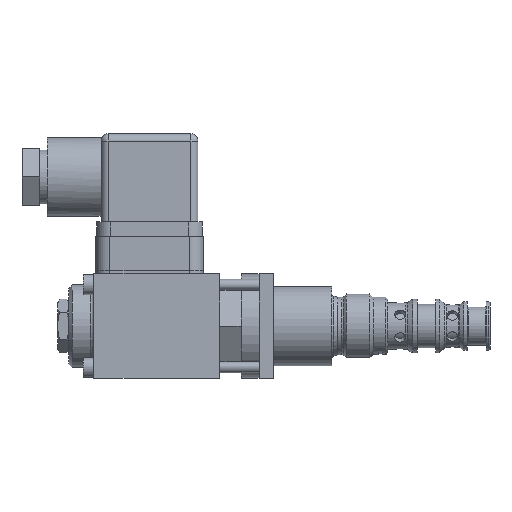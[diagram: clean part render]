
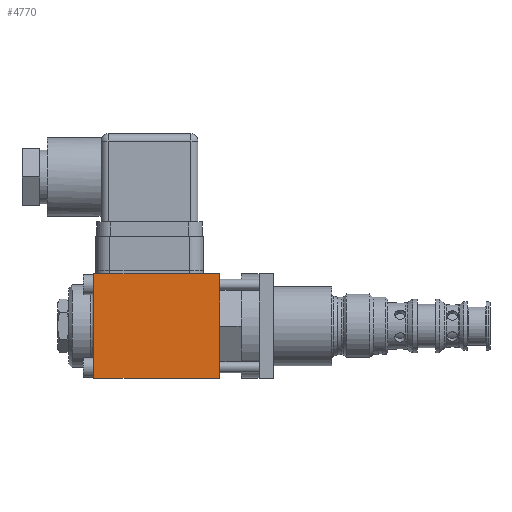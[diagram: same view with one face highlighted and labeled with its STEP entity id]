
A CAD part, front view. The second image highlights one B-rep face of the part: STEP entity #4770.
In plain terms, the highlighted planar face has unit normal (0, -1, 0).
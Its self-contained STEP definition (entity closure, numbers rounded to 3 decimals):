
#4770=ADVANCED_FACE('', (#4780), #4790, .T.);
#22810=AXIS2_PLACEMENT_3D('Ax2Pl3d', #22820, #22830, #22840);
#99390=CARTESIAN_POINT('', (35.,0.,29.));
#99400=CARTESIAN_POINT('', (35.,0.,29.));
#99410=CARTESIAN_POINT('', (35.,0.,0.));
#99500=CARTESIAN_POINT('', (0.,0.,29.));
#99520=CARTESIAN_POINT('', (35.,0.,29.));
#99640=CARTESIAN_POINT('', (0.,0.,29.));
#99650=CARTESIAN_POINT('', (0.,0.,
0.));
#22820=CARTESIAN_POINT('HicPkt', (0.,0.,
0.));
#99750=CARTESIAN_POINT('', (35.,0.,0.));
#109360=DIRECTION('', (0.,0.,1.));
#109390=DIRECTION('', (1.,0.,0.));
#109410=DIRECTION('', (0.,0.,1.));
#22830=DIRECTION('Axis', (0.,-1.,0.)
);
#22840=DIRECTION('RefDirection', (0.,
0.,-1.));
#109440=DIRECTION('', (1.,0.,0.));
#116520=EDGE_CURVE('', #116530, #116500, #116540, .T.);
#116730=EDGE_CURVE('', #116700, #116500, #116740, .T.);
#116970=EDGE_CURVE('', #116980, #116700, #116990, .T.);
#117170=EDGE_CURVE('', #116980, #116530, #117180, .T.);
#132790=EDGE_LOOP('Edge_loop', (#132800,#132810,#132820,#132830));
#4780=FACE_OUTER_BOUND('Face_outer_bound', #132790, .T.);
#116540=LINE('Line', #99400, #147170);
#116740=LINE('Line', #99520, #147200);
#116990=LINE('Line', #99640, #147220);
#117180=LINE('Line', #99750, #147250);
#132800=ORIENTED_EDGE('', *, *, #116970, .F.);
#132810=ORIENTED_EDGE('', *, *, #117170, .T.);
#132820=ORIENTED_EDGE('', *, *, #116520, .T.);
#132830=ORIENTED_EDGE('', *, *, #116730, .F.);
#4790=PLANE('Plane', #22810);
#147170=VECTOR('', #109360, 29.);
#147200=VECTOR('', #109390, 35.);
#147220=VECTOR('', #109410, 29.);
#147250=VECTOR('', #109440, 35.);
#116500=VERTEX_POINT('', #99390);
#116530=VERTEX_POINT('', #99410);
#116700=VERTEX_POINT('', #99500);
#116980=VERTEX_POINT('', #99650);
